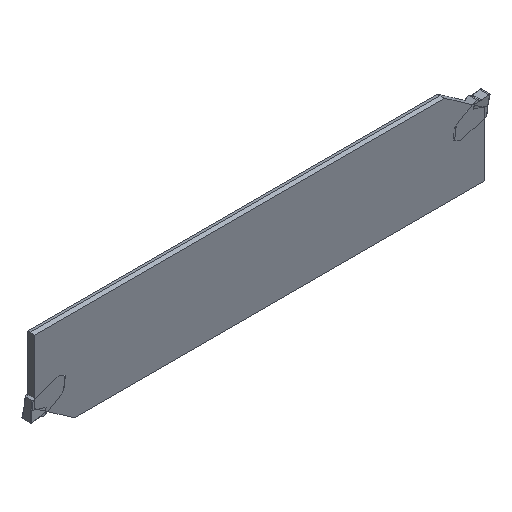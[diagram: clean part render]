
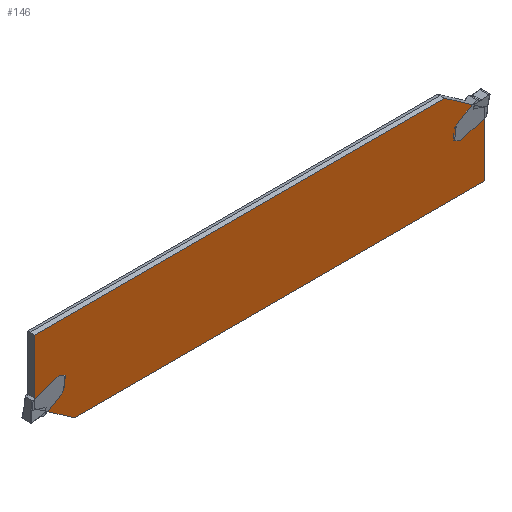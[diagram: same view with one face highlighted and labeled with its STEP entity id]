
A CAD part, isometric view. The second image highlights one B-rep face of the part: STEP entity #146.
In plain terms, the highlighted planar face has unit normal (0, -1, 0).
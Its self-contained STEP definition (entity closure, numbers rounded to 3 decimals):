
#146=ADVANCED_FACE('',(#248),#204,.F.);
#204=PLANE('',#1185);
#248=FACE_OUTER_BOUND('',#306,.T.);
#306=EDGE_LOOP('',(#369,#370,#371,#372,#373,#374));
#369=ORIENTED_EDGE('',*,*,#785,.F.);
#370=ORIENTED_EDGE('',*,*,#786,.T.);
#371=ORIENTED_EDGE('',*,*,#787,.F.);
#372=ORIENTED_EDGE('',*,*,#788,.F.);
#373=ORIENTED_EDGE('',*,*,#789,.T.);
#374=ORIENTED_EDGE('',*,*,#790,.F.);
#681=VERTEX_POINT('',#1595);
#682=VERTEX_POINT('',#1596);
#683=VERTEX_POINT('',#1598);
#684=VERTEX_POINT('',#1600);
#685=VERTEX_POINT('',#1602);
#686=VERTEX_POINT('',#1604);
#785=EDGE_CURVE('',#681,#682,#941,.T.);
#786=EDGE_CURVE('',#681,#683,#942,.T.);
#787=EDGE_CURVE('',#684,#683,#943,.T.);
#788=EDGE_CURVE('',#685,#684,#944,.T.);
#789=EDGE_CURVE('',#685,#686,#945,.T.);
#790=EDGE_CURVE('',#682,#686,#946,.T.);
#941=LINE('',#1594,#1065);
#942=LINE('',#1597,#1066);
#943=LINE('',#1599,#1067);
#944=LINE('',#1601,#1068);
#945=LINE('',#1603,#1069);
#946=LINE('',#1605,#1070);
#1065=VECTOR('',#1284,1.);
#1066=VECTOR('',#1285,1.);
#1067=VECTOR('',#1286,1.);
#1068=VECTOR('',#1287,1.);
#1069=VECTOR('',#1288,1.);
#1070=VECTOR('',#1289,1.);
#1185=AXIS2_PLACEMENT_3D('',#1606,#1290,#1291);
#1284=DIRECTION('',(-1.,0.,0.));
#1285=DIRECTION('',(0.,0.,1.));
#1286=DIRECTION('',(0.819,0.,-0.574));
#1287=DIRECTION('',(1.,0.,0.));
#1288=DIRECTION('',(0.,0.,-1.));
#1289=DIRECTION('',(-0.819,0.,0.574));
#1290=DIRECTION('',(0.,1.,0.));
#1291=DIRECTION('',(0.,0.,-1.));
#1594=CARTESIAN_POINT('',(-1.5,-1.2,-24.458));
#1595=CARTESIAN_POINT('',(-1.5,-1.2,-24.458));
#1596=CARTESIAN_POINT('',(-138.189,-1.2,-24.458));
#1597=CARTESIAN_POINT('',(-1.5,-1.2,-24.78));
#1598=CARTESIAN_POINT('',(-1.5,-1.2,-3.312));
#1599=CARTESIAN_POINT('',(-6.03,-1.2,-0.14));
#1600=CARTESIAN_POINT('',(-14.811,-1.2,6.008));
#1601=CARTESIAN_POINT('',(-1.5,-1.2,6.008));
#1602=CARTESIAN_POINT('',(-151.5,-1.2,6.008));
#1603=CARTESIAN_POINT('',(-151.5,-1.2,6.33));
#1604=CARTESIAN_POINT('',(-151.5,-1.2,-15.138));
#1605=CARTESIAN_POINT('',(-146.97,-1.2,-18.31));
#1606=CARTESIAN_POINT('',(-1.5,-1.2,6.33));
